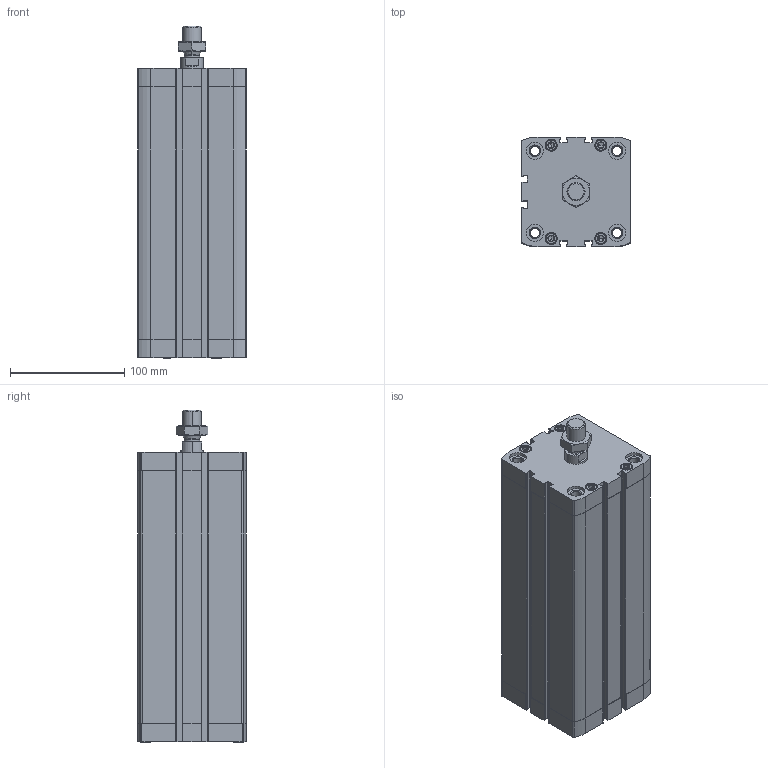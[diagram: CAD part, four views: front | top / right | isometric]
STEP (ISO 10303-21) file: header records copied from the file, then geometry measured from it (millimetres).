
FILE_DESCRIPTION (( 'STEP AP203' ), '1' );
FILE_NAME ('CCN80-200M.STEP', '2017-04-06T11:57:07', ( '' ), ( '' ), 'SwSTEP 2.0', 'SolidWorks 2016', '' );
FILE_SCHEMA (( 'CONFIG_CONTROL_DESIGN' ));
Length unit declared in the file: millimetre
Products named in the file (4): _DIN-439-B - M16x1.5(F); CCN80-200M; CCN-200---(Z); CCN-200_(KS)
Assembly tree (3 placements, depth 2):
  CCN80-200M
    CCN-200---(Z)
    CCN-200_(KS)
    _DIN-439-B - M16x1.5(F)
Bounding box: 95.5 x 95.5 x 290.9 mm (x, y, z)
Volume: 1236556.9 mm3; surface area: 259915.9 mm2
Topology: 3 solids, 3 shells, 507 faces, 1276 edges, 806 vertices
Faces by surface type: plane 235, cylinder 188, cone 80, bspline 4
Entity records: 16066 total; most frequent: CARTESIAN_POINT 3291, DIRECTION 2700, ORIENTED_EDGE 2520, EDGE_CURVE 1260, AXIS2_PLACEMENT_3D 1011, VERTEX_POINT 806, LINE 678, VECTOR 678
